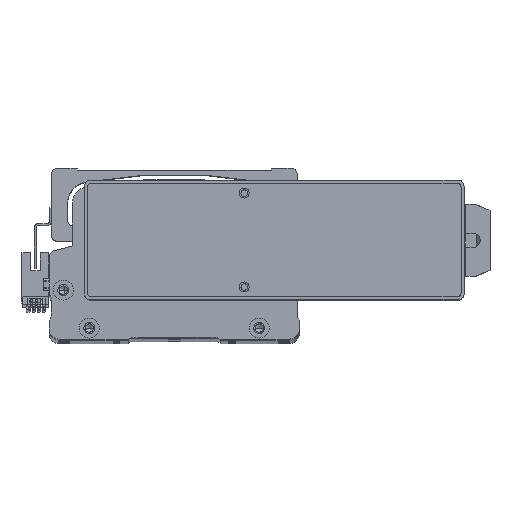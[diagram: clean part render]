
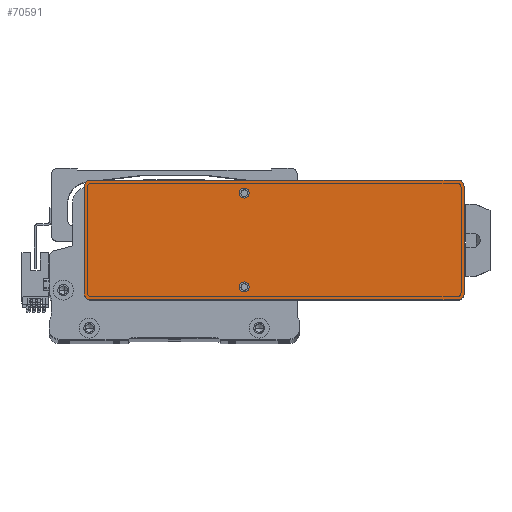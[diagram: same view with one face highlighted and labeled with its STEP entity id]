
A CAD part, top view. The second image highlights one B-rep face of the part: STEP entity #70591.
In plain terms, the highlighted planar face has unit normal (0, 0, 1) as drawn and (0, 0, -1) by its records, which use the part's own axes.
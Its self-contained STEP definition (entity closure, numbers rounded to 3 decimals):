
#413 = CIRCLE ( 'NONE', #23062, 3. ) ;
#2250 = CARTESIAN_POINT ( 'NONE',  ( -95., -30., 0. ) ) ;
#2688 = CARTESIAN_POINT ( 'NONE',  ( 92., 27., 0. ) ) ;
#3486 = CARTESIAN_POINT ( 'NONE',  ( -17.5, -23.5, 0. ) ) ;
#3528 = AXIS2_PLACEMENT_3D ( 'NONE', #68302, #30753, #74649 ) ;
#3530 = CIRCLE ( 'NONE', #44623, 3. ) ;
#3695 = DIRECTION ( 'NONE',  ( -1., 0., 0. ) ) ;
#3797 = ORIENTED_EDGE ( 'NONE', *, *, #7676, .T. ) ;
#4317 = DIRECTION ( 'NONE',  ( 1., 0., 0. ) ) ;
#5233 = EDGE_CURVE ( 'NONE', #36351, #36602, #28645, .T. ) ;
#6281 = VERTEX_POINT ( 'NONE', #41862 ) ;
#7676 = EDGE_CURVE ( 'NONE', #17117, #6281, #3530, .T. ) ;
#8762 = EDGE_CURVE ( 'NONE', #27929, #9301, #52410, .T. ) ;
#8974 = DIRECTION ( 'NONE',  ( 1., 0., 0. ) ) ;
#9301 = VERTEX_POINT ( 'NONE', #79905 ) ;
#11329 = ORIENTED_EDGE ( 'NONE', *, *, #48424, .F. ) ;
#13226 = CARTESIAN_POINT ( 'NONE',  ( 92., -30., 0. ) ) ;
#14711 = VERTEX_POINT ( 'NONE', #3486 ) ;
#14820 = LINE ( 'NONE', #60294, #29527 ) ;
#15755 = AXIS2_PLACEMENT_3D ( 'NONE', #2688, #46601, #8974 ) ;
#16015 = CARTESIAN_POINT ( 'NONE',  ( 95., -27., 0. ) ) ;
#17117 = VERTEX_POINT ( 'NONE', #24492 ) ;
#18015 = CARTESIAN_POINT ( 'NONE',  ( -15., 23.5, 0. ) ) ;
#19198 = AXIS2_PLACEMENT_3D ( 'NONE', #78928, #41332, #3695 ) ;
#19738 = AXIS2_PLACEMENT_3D ( 'NONE', #79563, #41947, #4317 ) ;
#20078 = ORIENTED_EDGE ( 'NONE', *, *, #55472, .F. ) ;
#21133 = EDGE_CURVE ( 'NONE', #78033, #14711, #45290, .T. ) ;
#23062 = AXIS2_PLACEMENT_3D ( 'NONE', #74416, #36827, #80789 ) ;
#23073 = AXIS2_PLACEMENT_3D ( 'NONE', #18015, #61888, #24345 ) ;
#23149 = EDGE_CURVE ( 'NONE', #34251, #79599, #52663, .T. ) ;
#23687 = AXIS2_PLACEMENT_3D ( 'NONE', #24213, #30513, #74397 ) ;
#24213 = CARTESIAN_POINT ( 'NONE',  ( 0., 0., 0. ) ) ;
#24345 = DIRECTION ( 'NONE',  ( -1., 0., 0. ) ) ;
#24492 = CARTESIAN_POINT ( 'NONE',  ( -95., 27., 0. ) ) ;
#26371 = EDGE_LOOP ( 'NONE', ( #20078, #38816, #75313, #28472, #30572, #3797, #71394, #48903 ) ) ;
#26485 = CARTESIAN_POINT ( 'NONE',  ( 92., 30., 0. ) ) ;
#27657 = LINE ( 'NONE', #68027, #61000 ) ;
#27929 = VERTEX_POINT ( 'NONE', #26485 ) ;
#28472 = ORIENTED_EDGE ( 'NONE', *, *, #76134, .T. ) ;
#28645 = CIRCLE ( 'NONE', #19738, 3. ) ;
#29527 = VECTOR ( 'NONE', #35357, 1000. ) ;
#30513 = DIRECTION ( 'NONE',  ( 0., 0., 1. ) ) ;
#30572 = ORIENTED_EDGE ( 'NONE', *, *, #41119, .F. ) ;
#30753 = DIRECTION ( 'NONE',  ( 0., 0., -1. ) ) ;
#31469 = ORIENTED_EDGE ( 'NONE', *, *, #23149, .F. ) ;
#32856 = DIRECTION ( 'NONE',  ( 0., 0., -1. ) ) ;
#33731 = AXIS2_PLACEMENT_3D ( 'NONE', #34646, #78599, #40983 ) ;
#34251 = VERTEX_POINT ( 'NONE', #47183 ) ;
#34646 = CARTESIAN_POINT ( 'NONE',  ( -15., -23.5, 0. ) ) ;
#35357 = DIRECTION ( 'NONE',  ( 0., 1., 0. ) ) ;
#36351 = VERTEX_POINT ( 'NONE', #16015 ) ;
#36602 = VERTEX_POINT ( 'NONE', #13226 ) ;
#36827 = DIRECTION ( 'NONE',  ( 0., 0., -1. ) ) ;
#37100 = FACE_BOUND ( 'NONE', #65639, .T. ) ;
#38013 = LINE ( 'NONE', #42624, #53804 ) ;
#38816 = ORIENTED_EDGE ( 'NONE', *, *, #5233, .T. ) ;
#40713 = EDGE_CURVE ( 'NONE', #78402, #36602, #27657, .T. ) ;
#40983 = DIRECTION ( 'NONE',  ( -1., 0., 0. ) ) ;
#41119 = EDGE_CURVE ( 'NONE', #17117, #44332, #80616, .T. ) ;
#41332 = DIRECTION ( 'NONE',  ( 0., 0., -1. ) ) ;
#41862 = CARTESIAN_POINT ( 'NONE',  ( -92., 30., 0. ) ) ;
#41947 = DIRECTION ( 'NONE',  ( 0., 0., -1. ) ) ;
#42624 = CARTESIAN_POINT ( 'NONE',  ( 95., 30., 0. ) ) ;
#44332 = VERTEX_POINT ( 'NONE', #59598 ) ;
#44623 = AXIS2_PLACEMENT_3D ( 'NONE', #70438, #32856, #76758 ) ;
#45227 = VECTOR ( 'NONE', #71095, 1000. ) ;
#45290 = CIRCLE ( 'NONE', #19198, 2.5 ) ;
#45782 = EDGE_CURVE ( 'NONE', #79599, #34251, #57743, .T. ) ;
#46268 = ORIENTED_EDGE ( 'NONE', *, *, #45782, .F. ) ;
#46416 = EDGE_CURVE ( 'NONE', #27929, #6281, #38013, .T. ) ;
#46601 = DIRECTION ( 'NONE',  ( 0., 0., -1. ) ) ;
#46787 = CIRCLE ( 'NONE', #33731, 2.5 ) ;
#47183 = CARTESIAN_POINT ( 'NONE',  ( -17.5, 23.5, 0. ) ) ;
#48424 = EDGE_CURVE ( 'NONE', #14711, #78033, #46787, .T. ) ;
#48903 = ORIENTED_EDGE ( 'NONE', *, *, #8762, .T. ) ;
#52410 = CIRCLE ( 'NONE', #15755, 3. ) ;
#52663 = CIRCLE ( 'NONE', #3528, 2.5 ) ;
#53755 = FACE_BOUND ( 'NONE', #57397, .T. ) ;
#53804 = VECTOR ( 'NONE', #61522, 1000. ) ;
#54242 = CARTESIAN_POINT ( 'NONE',  ( -12.5, 23.5, 0. ) ) ;
#55359 = ORIENTED_EDGE ( 'NONE', *, *, #21133, .F. ) ;
#55472 = EDGE_CURVE ( 'NONE', #36351, #9301, #14820, .T. ) ;
#57397 = EDGE_LOOP ( 'NONE', ( #31469, #46268 ) ) ;
#57743 = CIRCLE ( 'NONE', #23073, 2.5 ) ;
#59598 = CARTESIAN_POINT ( 'NONE',  ( -95., -27., 0. ) ) ;
#60294 = CARTESIAN_POINT ( 'NONE',  ( 95., -30., 0. ) ) ;
#61000 = VECTOR ( 'NONE', #80738, 1000. ) ;
#61522 = DIRECTION ( 'NONE',  ( -1., 0., 0. ) ) ;
#61773 = PLANE ( 'NONE',  #23687 ) ;
#61888 = DIRECTION ( 'NONE',  ( 0., 0., -1. ) ) ;
#65639 = EDGE_LOOP ( 'NONE', ( #11329, #55359 ) ) ;
#68027 = CARTESIAN_POINT ( 'NONE',  ( 95., -30., 0. ) ) ;
#68302 = CARTESIAN_POINT ( 'NONE',  ( -15., 23.5, 0. ) ) ;
#70438 = CARTESIAN_POINT ( 'NONE',  ( -92., 27., 0. ) ) ;
#70471 = FACE_OUTER_BOUND ( 'NONE', #26371, .T. ) ;
#70591 = ADVANCED_FACE ( 'NONE', ( #53755, #70471, #37100 ), #61773, .F. ) ;
#71095 = DIRECTION ( 'NONE',  ( 0., -1., 0. ) ) ;
#71394 = ORIENTED_EDGE ( 'NONE', *, *, #46416, .F. ) ;
#73180 = CARTESIAN_POINT ( 'NONE',  ( -12.5, -23.5, 0. ) ) ;
#74397 = DIRECTION ( 'NONE',  ( 1., 0., 0. ) ) ;
#74416 = CARTESIAN_POINT ( 'NONE',  ( -92., -27., 0. ) ) ;
#74649 = DIRECTION ( 'NONE',  ( -1., 0., 0. ) ) ;
#75313 = ORIENTED_EDGE ( 'NONE', *, *, #40713, .F. ) ;
#76134 = EDGE_CURVE ( 'NONE', #78402, #44332, #413, .T. ) ;
#76758 = DIRECTION ( 'NONE',  ( 1., 0., 0. ) ) ;
#77540 = CARTESIAN_POINT ( 'NONE',  ( -92., -30., 0. ) ) ;
#78033 = VERTEX_POINT ( 'NONE', #73180 ) ;
#78402 = VERTEX_POINT ( 'NONE', #77540 ) ;
#78599 = DIRECTION ( 'NONE',  ( 0., 0., -1. ) ) ;
#78928 = CARTESIAN_POINT ( 'NONE',  ( -15., -23.5, 0. ) ) ;
#79563 = CARTESIAN_POINT ( 'NONE',  ( 92., -27., 0. ) ) ;
#79599 = VERTEX_POINT ( 'NONE', #54242 ) ;
#79905 = CARTESIAN_POINT ( 'NONE',  ( 95., 27., 0. ) ) ;
#80616 = LINE ( 'NONE', #2250, #45227 ) ;
#80738 = DIRECTION ( 'NONE',  ( 1., 0., 0. ) ) ;
#80789 = DIRECTION ( 'NONE',  ( 1., 0., 0. ) ) ;
